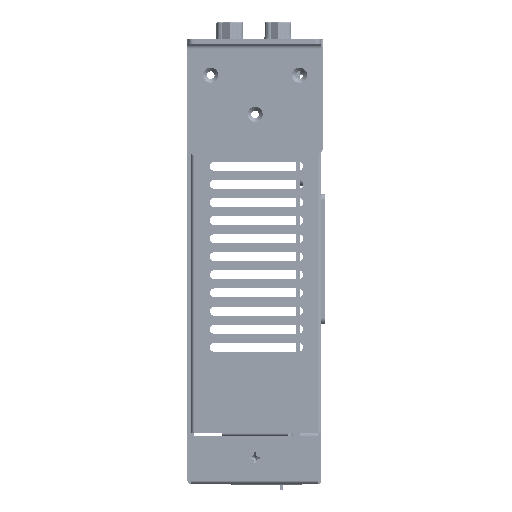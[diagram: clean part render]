
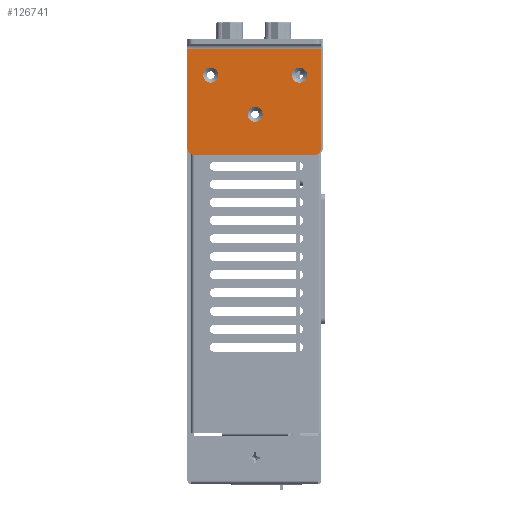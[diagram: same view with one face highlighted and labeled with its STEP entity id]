
A CAD part, left-side view. The second image highlights one B-rep face of the part: STEP entity #126741.
In plain terms, the highlighted planar face has unit normal (-1, 0, 0).
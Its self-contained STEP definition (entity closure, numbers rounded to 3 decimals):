
#2390=FACE_BOUND('',#15276,.T.);
#2391=FACE_BOUND('',#15277,.T.);
#2392=FACE_BOUND('',#15278,.T.);
#3834=CIRCLE('',#135153,2.5);
#3837=CIRCLE('',#135158,2.5);
#3840=CIRCLE('',#135163,2.5);
#3843=CIRCLE('',#135168,2.);
#3846=CIRCLE('',#135174,2.);
#8156=FACE_OUTER_BOUND('',#15275,.T.);
#15275=EDGE_LOOP('',(#83804,#83805,#83806,#83807,#83808,#83809));
#15276=EDGE_LOOP('',(#83810));
#15277=EDGE_LOOP('',(#83811));
#15278=EDGE_LOOP('',(#83812));
#23512=LINE('',#181109,#37782);
#23518=LINE('',#181126,#37788);
#23534=LINE('',#181172,#37804);
#23535=LINE('',#181175,#37805);
#37782=VECTOR('',#145794,10.);
#37788=VECTOR('',#145810,10.);
#37804=VECTOR('',#145862,10.);
#37805=VECTOR('',#145867,10.);
#52042=VERTEX_POINT('',#181066);
#52045=VERTEX_POINT('',#181076);
#52048=VERTEX_POINT('',#181086);
#52051=VERTEX_POINT('',#181096);
#52052=VERTEX_POINT('',#181097);
#52056=VERTEX_POINT('',#181107);
#52060=VERTEX_POINT('',#181119);
#52061=VERTEX_POINT('',#181120);
#52062=VERTEX_POINT('',#181125);
#64624=EDGE_CURVE('',#52042,#52042,#3834,.T.);
#64629=EDGE_CURVE('',#52045,#52045,#3837,.T.);
#64634=EDGE_CURVE('',#52048,#52048,#3840,.T.);
#64639=EDGE_CURVE('',#52051,#52052,#3843,.T.);
#64645=EDGE_CURVE('',#52051,#52056,#23512,.T.);
#64650=EDGE_CURVE('',#52060,#52061,#3846,.T.);
#64653=EDGE_CURVE('',#52062,#52061,#23518,.T.);
#64677=EDGE_CURVE('',#52056,#52062,#23534,.T.);
#64678=EDGE_CURVE('',#52060,#52052,#23535,.T.);
#83804=ORIENTED_EDGE('',*,*,#64639,.F.);
#83805=ORIENTED_EDGE('',*,*,#64645,.T.);
#83806=ORIENTED_EDGE('',*,*,#64677,.T.);
#83807=ORIENTED_EDGE('',*,*,#64653,.T.);
#83808=ORIENTED_EDGE('',*,*,#64650,.F.);
#83809=ORIENTED_EDGE('',*,*,#64678,.T.);
#83810=ORIENTED_EDGE('',*,*,#64624,.T.);
#83811=ORIENTED_EDGE('',*,*,#64629,.T.);
#83812=ORIENTED_EDGE('',*,*,#64634,.T.);
#121780=PLANE('',#135196);
#126741=ADVANCED_FACE('',(#8156,#2390,#2391,#2392),#121780,.T.);
#135153=AXIS2_PLACEMENT_3D('',#181067,#145748,#145749);
#135158=AXIS2_PLACEMENT_3D('',#181077,#145760,#145761);
#135163=AXIS2_PLACEMENT_3D('',#181087,#145772,#145773);
#135168=AXIS2_PLACEMENT_3D('',#181098,#145784,#145785);
#135174=AXIS2_PLACEMENT_3D('',#181121,#145804,#145805);
#135196=AXIS2_PLACEMENT_3D('',#181176,#145868,#145869);
#145748=DIRECTION('center_axis',(1.,0.,0.));
#145749=DIRECTION('ref_axis',(0.,-1.,0.));
#145760=DIRECTION('center_axis',(1.,0.,0.));
#145761=DIRECTION('ref_axis',(0.,-1.,0.));
#145772=DIRECTION('center_axis',(1.,0.,0.));
#145773=DIRECTION('ref_axis',(0.,-1.,0.));
#145784=DIRECTION('center_axis',(1.,0.,0.));
#145785=DIRECTION('ref_axis',(0.,-0.707,-0.707));
#145794=DIRECTION('',(0.,0.,1.));
#145804=DIRECTION('center_axis',(1.,0.,0.));
#145805=DIRECTION('ref_axis',(0.,0.707,-0.707));
#145810=DIRECTION('',(0.,0.,-1.));
#145862=DIRECTION('',(0.,1.,0.));
#145867=DIRECTION('',(0.,-1.,0.));
#145868=DIRECTION('center_axis',(-1.,0.,0.));
#145869=DIRECTION('ref_axis',(0.,0.,1.));
#181066=CARTESIAN_POINT('',(-214.85,32.2,-8.9));
#181067=CARTESIAN_POINT('Origin',(-214.85,29.7,-8.9));
#181076=CARTESIAN_POINT('',(-214.85,17.5,-21.9));
#181077=CARTESIAN_POINT('Origin',(-214.85,15.,-21.9));
#181086=CARTESIAN_POINT('',(-214.85,2.8,-8.9));
#181087=CARTESIAN_POINT('Origin',(-214.85,0.3,-8.9));
#181096=CARTESIAN_POINT('',(-214.85,-6.8,-33.3));
#181097=CARTESIAN_POINT('',(-214.85,-4.8,-35.3));
#181098=CARTESIAN_POINT('Origin',(-214.85,-4.8,-33.3));
#181107=CARTESIAN_POINT('',(-214.85,-6.8,-0.2));
#181109=CARTESIAN_POINT('',(-214.85,-6.8,3.1));
#181119=CARTESIAN_POINT('',(-214.85,35.4,-35.3));
#181120=CARTESIAN_POINT('',(-214.85,37.4,-33.3));
#181121=CARTESIAN_POINT('Origin',(-214.85,35.4,-33.3));
#181125=CARTESIAN_POINT('',(-214.85,37.4,-0.2));
#181126=CARTESIAN_POINT('',(-214.85,37.4,-35.3));
#181172=CARTESIAN_POINT('',(-214.85,4.25,-0.2));
#181175=CARTESIAN_POINT('',(-214.85,-6.8,-35.3));
#181176=CARTESIAN_POINT('Origin',(-214.85,15.3,-16.1));
